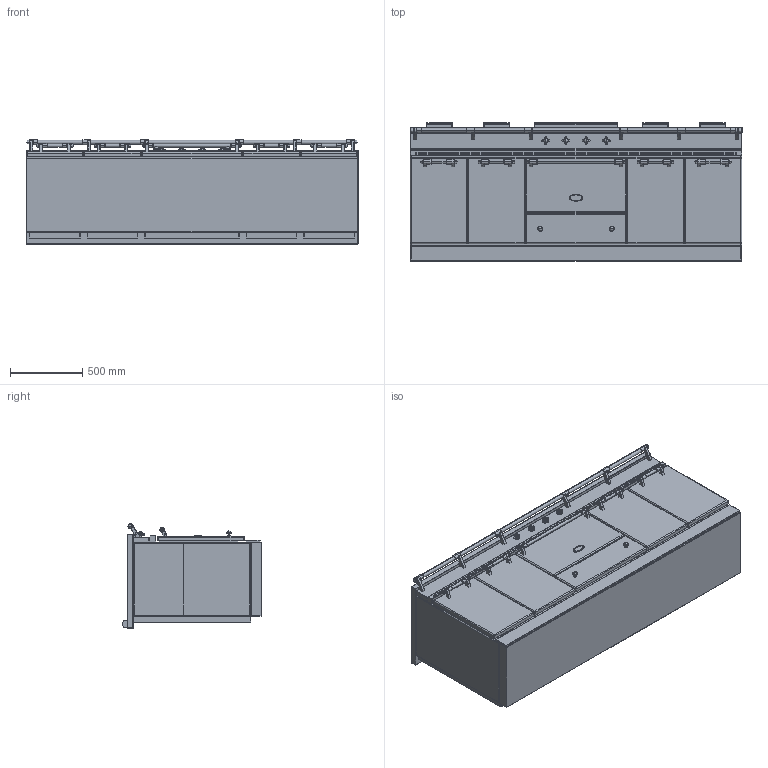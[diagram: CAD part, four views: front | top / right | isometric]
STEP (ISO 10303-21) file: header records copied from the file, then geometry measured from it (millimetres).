
FILE_DESCRIPTION((''),'2;1');
FILE_NAME('LVI2331_ASM','2021-12-08T09:11:52',('r.avril'),(''),'CREO PARAMETRIC BY PTC INC, 2017260','CREO PARAMETRIC BY PTC INC, 2017260','');
FILE_SCHEMA(('AP203_CONFIGURATION_CONTROLLED_3D_DESIGN_OF_MECHANICAL_PARTS_AND_ASSEMBLIES_MIM_LF { 1 0 10303 403 2 1 2 }'));
Products named in the file (21): BASE_EXPORT_FONTENAY_LVI2331; 65650003; 65650004; 65650006; 65650007; 6531940; 6531941; 6531943; 65049009; 65650001; 6538399; 1931942; 65080022_AF0; 6531942_ASM; BASE_EXPORT_FONTENAY_LVI2331_ASM; TABLE_2300_INDUCTION_ET_VTR; 65052012; CHEMINEE_2020_LG582_EXPORT_STEP; CHEMINEE_2020_LG182_EXPORT_STEP; TABLE_2300_INDUCTION_ASM; LVI2331_ASM
Assembly tree (37 placements, depth 4):
  LVI2331_ASM
    BASE_EXPORT_FONTENAY_LVI2331_ASM
      BASE_EXPORT_FONTENAY_LVI2331
      65650003
      65650004
      65650006  x2
      65650007  x2
      6531940  x5
      6531941  x5
      6531943  x2
      65049009
      65650001
      6531942_ASM  x4
        6538399
        1931942
        65080022_AF0
    TABLE_2300_INDUCTION_ASM
      TABLE_2300_INDUCTION_ET_VTR
      65052012
      CHEMINEE_2020_LG582_EXPORT_STEP
      CHEMINEE_2020_LG182_EXPORT_STEP  x4
Bounding box: 2305 x 963 x 724 mm (x, y, z)
Volume: 850730106.6 mm3; surface area: 19464191.1 mm2
Topology: 50 solids, 68 shells, 5707 faces, 15492 edges, 9916 vertices
Faces by surface type: plane 2819, cylinder 2090, torus 282, sphere 162, bspline 122, extrusion 114, cone 94, revolution 24
Entity records: 132153 total; most frequent: CARTESIAN_POINT 27309, ORIENTED_EDGE 18744, DIRECTION 18724, EDGE_CURVE 9386, VECTOR 6260, LINE 6230, AXIS2_PLACEMENT_3D 6198, VERTEX_POINT 6063
